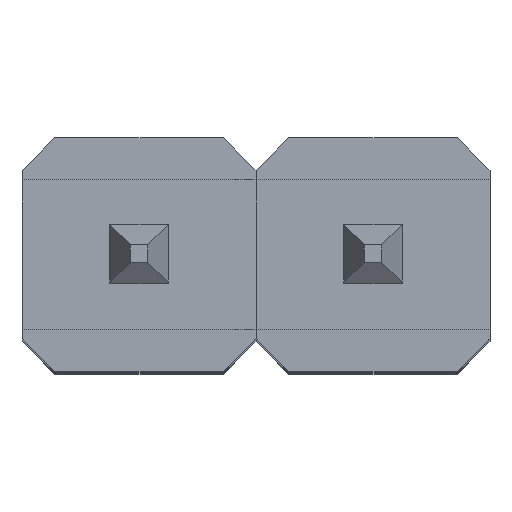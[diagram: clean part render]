
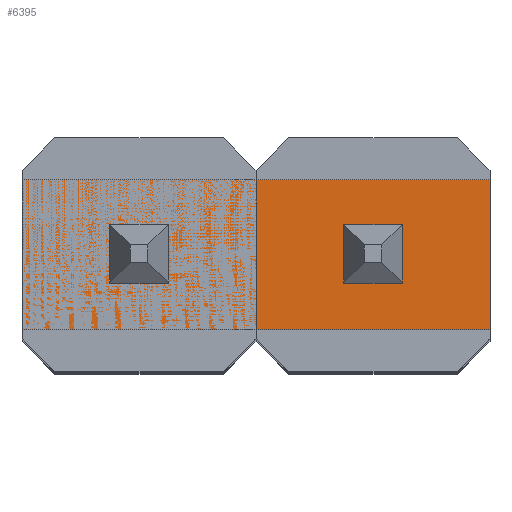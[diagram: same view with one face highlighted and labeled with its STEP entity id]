
A CAD part, top view. The second image highlights one B-rep face of the part: STEP entity #6395.
In plain terms, the highlighted planar face has unit normal (0, 0, 1).
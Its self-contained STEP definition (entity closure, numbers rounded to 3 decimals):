
#6070 = VERTEX_POINT('',#6071);
#6071 = CARTESIAN_POINT('',(3.81,0.813,15.6));
#6077 = EDGE_CURVE('',#6070,#6078,#6080,.T.);
#6078 = VERTEX_POINT('',#6079);
#6079 = CARTESIAN_POINT('',(3.81,-0.813,15.6));
#6080 = LINE('',#6081,#6082);
#6081 = CARTESIAN_POINT('',(3.81,-0.813,15.6));
#6082 = VECTOR('',#6083,1.);
#6083 = DIRECTION('',(-0.,-1.,-0.));
#6353 = VERTEX_POINT('',#6354);
#6354 = CARTESIAN_POINT('',(-1.27,-0.813,15.6));
#6360 = EDGE_CURVE('',#6361,#6353,#6363,.T.);
#6361 = VERTEX_POINT('',#6362);
#6362 = CARTESIAN_POINT('',(-1.27,0.813,15.6));
#6363 = LINE('',#6364,#6365);
#6364 = CARTESIAN_POINT('',(-1.27,-0.813,15.6));
#6365 = VECTOR('',#6366,1.);
#6366 = DIRECTION('',(-0.,-1.,-0.));
#6384 = EDGE_CURVE('',#6353,#6078,#6385,.T.);
#6385 = LINE('',#6386,#6387);
#6386 = CARTESIAN_POINT('',(-1.27,-0.813,15.6));
#6387 = VECTOR('',#6388,1.);
#6388 = DIRECTION('',(1.,0.,0.));
#6395 = ADVANCED_FACE('',(#6396),#6407,.T.);
#6396 = FACE_BOUND('',#6397,.T.);
#6397 = EDGE_LOOP('',(#6398,#6399,#6400,#6406));
#6398 = ORIENTED_EDGE('',*,*,#6384,.T.);
#6399 = ORIENTED_EDGE('',*,*,#6077,.F.);
#6400 = ORIENTED_EDGE('',*,*,#6401,.F.);
#6401 = EDGE_CURVE('',#6361,#6070,#6402,.T.);
#6402 = LINE('',#6403,#6404);
#6403 = CARTESIAN_POINT('',(-1.27,0.813,15.6));
#6404 = VECTOR('',#6405,1.);
#6405 = DIRECTION('',(1.,0.,0.));
#6406 = ORIENTED_EDGE('',*,*,#6360,.T.);
#6407 = PLANE('',#6408);
#6408 = AXIS2_PLACEMENT_3D('',#6409,#6410,#6411);
#6409 = CARTESIAN_POINT('',(-1.27,-0.813,15.6));
#6410 = DIRECTION('',(0.,0.,1.));
#6411 = DIRECTION('',(1.,0.,-0.));
